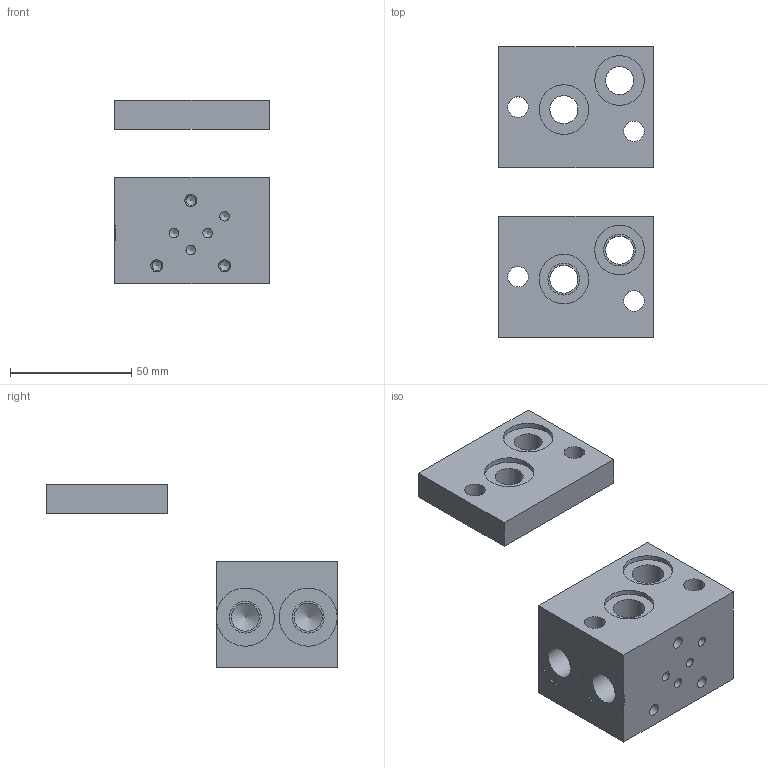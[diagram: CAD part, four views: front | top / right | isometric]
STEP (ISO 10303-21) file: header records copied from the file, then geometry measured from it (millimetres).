
FILE_DESCRIPTION(('Bauteilbeschreibung','HiCAD-Model','HiCAD-STEP-TRANSLATION','Bauteilbeschreibung'),'2;1');
FILE_NAME('C:/_EIGENE_DATEN/DXF_STEP/BLV4_3508.STP','2008-08-25T10:59:45+00:00',('Konstrukteur'),('Konstrukteur Firma GmbH'),' HiCAD neXt 2007, Step 3.1.1212.3C ','HiCAD neXt 2007','confidential');
FILE_SCHEMA(('AUTOMOTIVE_DESIGN { 1 2 10303 214 0 1 1 1 }'));
Length unit declared in the file: millimetre
Products named in the file (6): BLV4_3508; BLV4; BLV4Z; AA396CB8; BLV4P_S_D; A65B5921
Assembly tree (5 placements, depth 4):
  BLV4_3508
    BLV4
      BLV4Z
        AA396CB8
      BLV4P_S_D
        A65B5921
Bounding box: 64 x 120 x 76 mm (x, y, z)
Volume: 150912.5 mm3; surface area: 34736 mm2
Topology: 2 solids, 2 shells, 68 faces, 172 edges, 118 vertices
Faces by surface type: cylinder 32, plane 24, cone 12
Full cylindrical faces by diameter (mm): 4 x4, 4.019 x3, 5 x3, 8.5 x4, 11.6 x6, 13.157 x6, 20.5 x4, 24 x2
Entity records: 2729 total; most frequent: DIRECTION 310, CARTESIAN_POINT 257, ORIENTED_EDGE 180, COLOUR_RGB 160, PRESENTATION_STYLE_ASSIGNMENT 160, OVER_RIDING_STYLED_ITEM 158, AXIS2_PLACEMENT_3D 142, EDGE_LOOP 140
